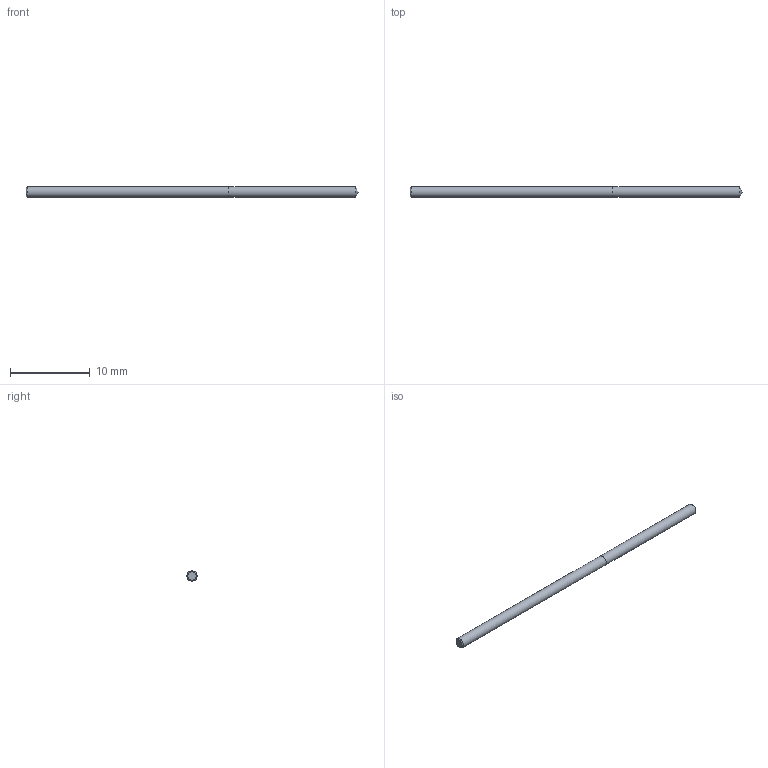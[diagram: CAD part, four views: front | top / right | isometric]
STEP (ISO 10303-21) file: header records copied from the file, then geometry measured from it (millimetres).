
FILE_DESCRIPTION (( 'STEP AP214' ), '1' );
FILE_NAME ('03-2397.STEP', '2022-06-03T07:13:24', ( 'USER' ), ( '' ), 'SwSTEP 2.0', 'SolidWorks 2018', '' );
FILE_SCHEMA (( 'AUTOMOTIVE_DESIGN' ));
Length unit declared in the file: inch
Products named in the file (1): 03-2397
Bounding box: 41.55 x 1.32 x 1.32 mm (x, y, z)
Volume: 56.6 mm3; surface area: 176.5 mm2
Topology: 2 solids, 2 shells, 7 faces, 11 edges, 7 vertices
Faces by surface type: plane 3, cylinder 2, cone 2
Full cylindrical faces by diameter (mm): 1.321 x2
Entity records: 214 total; most frequent: DIRECTION 26, CARTESIAN_POINT 18, AXIS2_PLACEMENT_3D 13, EDGE_LOOP 10, ORIENTED_EDGE 10, FACE_OUTER_BOUND 9, LENGTH_MEASURE_WITH_UNIT 7, UNCERTAINTY_MEASURE_WITH_UNIT 7
